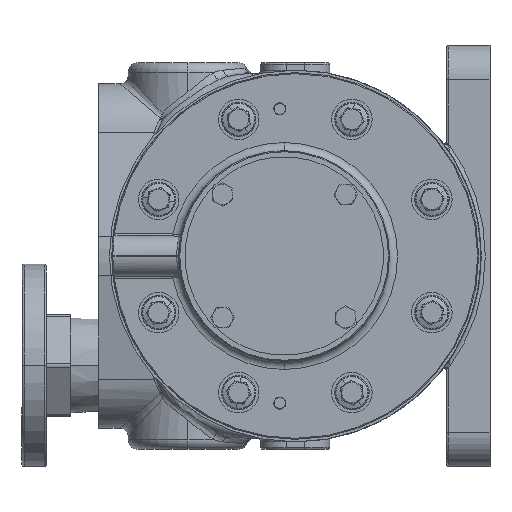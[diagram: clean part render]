
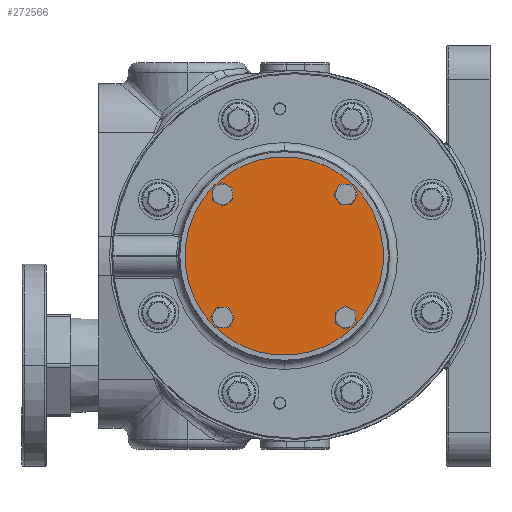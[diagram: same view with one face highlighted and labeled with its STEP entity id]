
A CAD part, left-side view. The second image highlights one B-rep face of the part: STEP entity #272566.
In plain terms, the highlighted planar face has unit normal (-1, 0, 0).
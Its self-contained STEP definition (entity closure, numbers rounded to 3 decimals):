
#2366 = CARTESIAN_POINT ( 'NONE',  ( -126.625, -29.138, 34.648 ) ) ;
#6628 = EDGE_LOOP ( 'NONE', ( #160574, #284402 ) ) ;
#7644 = AXIS2_PLACEMENT_3D ( 'NONE', #33769, #194156, #358671 ) ;
#9697 = CARTESIAN_POINT ( 'NONE',  ( -126.625, -22.421, 27.931 ) ) ;
#9710 = VERTEX_POINT ( 'NONE', #192307 ) ;
#12345 = AXIS2_PLACEMENT_3D ( 'NONE', #19086, #311505, #406431 ) ;
#15693 = DIRECTION ( 'NONE',  ( 0., 0.707, -0.707 ) ) ;
#19086 = CARTESIAN_POINT ( 'NONE',  ( -126.625, 35.916, -30.406 ) ) ;
#21273 = CIRCLE ( 'NONE', #263172, 3.5 ) ;
#21853 = EDGE_LOOP ( 'NONE', ( #186755, #205913 ) ) ;
#22178 = VERTEX_POINT ( 'NONE', #9697 ) ;
#25971 = CARTESIAN_POINT ( 'NONE',  ( -126.625, 33.441, -27.931 ) ) ;
#33365 = DIRECTION ( 'NONE',  ( -1., 0., 0. ) ) ;
#33769 = CARTESIAN_POINT ( 'NONE',  ( -126.625, -24.896, 30.406 ) ) ;
#41667 = EDGE_CURVE ( 'NONE', #278591, #22178, #367327, .T. ) ;
#42169 = DIRECTION ( 'NONE',  ( -1., 0., 0. ) ) ;
#42214 = ORIENTED_EDGE ( 'NONE', *, *, #361053, .T. ) ;
#43209 = CIRCLE ( 'NONE', #224807, 3.5 ) ;
#45208 = EDGE_LOOP ( 'NONE', ( #42214, #409742 ) ) ;
#50243 = VERTEX_POINT ( 'NONE', #217427 ) ;
#54906 = AXIS2_PLACEMENT_3D ( 'NONE', #125735, #121577, #90366 ) ;
#61096 = AXIS2_PLACEMENT_3D ( 'NONE', #112149, #174652, #15693 ) ;
#66049 = DIRECTION ( 'NONE',  ( 0., 0.707, -0.707 ) ) ;
#69225 = CARTESIAN_POINT ( 'NONE',  ( -126.625, 35.916, -30.406 ) ) ;
#69751 = CARTESIAN_POINT ( 'NONE',  ( -126.625, -24.896, 30.406 ) ) ;
#72006 = CARTESIAN_POINT ( 'NONE',  ( -126.625, -31.613, -37.123 ) ) ;
#75520 = ORIENTED_EDGE ( 'NONE', *, *, #78872, .F. ) ;
#77942 = CIRCLE ( 'NONE', #61096, 3.5 ) ;
#78872 = EDGE_CURVE ( 'NONE', #295013, #191474, #43209, .T. ) ;
#81993 = DIRECTION ( 'NONE',  ( -1., 0., 0. ) ) ;
#89909 = ORIENTED_EDGE ( 'NONE', *, *, #366098, .F. ) ;
#90366 = DIRECTION ( 'NONE',  ( 0., 0.707, -0.707 ) ) ;
#97379 = CARTESIAN_POINT ( 'NONE',  ( -126.625, -27.37, -27.931 ) ) ;
#100019 = EDGE_LOOP ( 'NONE', ( #89909, #406225 ) ) ;
#112149 = CARTESIAN_POINT ( 'NONE',  ( -126.625, -24.896, -30.406 ) ) ;
#116833 = CARTESIAN_POINT ( 'NONE',  ( -126.625, -22.421, -32.88 ) ) ;
#121577 = DIRECTION ( 'NONE',  ( -1., 0., 0. ) ) ;
#124124 = CIRCLE ( 'NONE', #320324, 49. ) ;
#124372 = AXIS2_PLACEMENT_3D ( 'NONE', #69225, #131666, #262319 ) ;
#125735 = CARTESIAN_POINT ( 'NONE',  ( -126.625, 5.51, 0. ) ) ;
#131462 = FACE_BOUND ( 'NONE', #21853, .T. ) ;
#131666 = DIRECTION ( 'NONE',  ( -1., 0., 0. ) ) ;
#133907 = AXIS2_PLACEMENT_3D ( 'NONE', #69751, #176077, #276846 ) ;
#146981 = CIRCLE ( 'NONE', #7644, 3.5 ) ;
#160574 = ORIENTED_EDGE ( 'NONE', *, *, #223973, .F. ) ;
#163352 = CIRCLE ( 'NONE', #337107, 3.5 ) ;
#172292 = FACE_BOUND ( 'NONE', #200327, .T. ) ;
#174652 = DIRECTION ( 'NONE',  ( -1., 0., 0. ) ) ;
#176077 = DIRECTION ( 'NONE',  ( -1., 0., 0. ) ) ;
#178855 = CARTESIAN_POINT ( 'NONE',  ( -126.625, -27.37, 32.88 ) ) ;
#186755 = ORIENTED_EDGE ( 'NONE', *, *, #366147, .F. ) ;
#191474 = VERTEX_POINT ( 'NONE', #266582 ) ;
#192307 = CARTESIAN_POINT ( 'NONE',  ( -126.625, 38.39, -32.88 ) ) ;
#194156 = DIRECTION ( 'NONE',  ( -1., 0., 0. ) ) ;
#200327 = EDGE_LOOP ( 'NONE', ( #223593, #75520 ) ) ;
#205913 = ORIENTED_EDGE ( 'NONE', *, *, #41667, .F. ) ;
#212549 = DIRECTION ( 'NONE',  ( 0., 0.707, -0.707 ) ) ;
#213007 = CIRCLE ( 'NONE', #124372, 3.5 ) ;
#214480 = EDGE_CURVE ( 'NONE', #377110, #9710, #421126, .T. ) ;
#217427 = CARTESIAN_POINT ( 'NONE',  ( -126.625, 40.158, -34.648 ) ) ;
#219832 = DIRECTION ( 'NONE',  ( 0., 0.707, -0.707 ) ) ;
#223593 = ORIENTED_EDGE ( 'NONE', *, *, #244355, .F. ) ;
#223973 = EDGE_CURVE ( 'NONE', #411706, #377536, #77942, .T. ) ;
#224807 = AXIS2_PLACEMENT_3D ( 'NONE', #381424, #380021, #219832 ) ;
#226334 = DIRECTION ( 'NONE',  ( -1., 0., 0. ) ) ;
#227816 = CARTESIAN_POINT ( 'NONE',  ( -126.625, 35.916, 30.406 ) ) ;
#244355 = EDGE_CURVE ( 'NONE', #191474, #295013, #21273, .T. ) ;
#254710 = CIRCLE ( 'NONE', #54906, 49. ) ;
#262319 = DIRECTION ( 'NONE',  ( 0., 0.707, -0.707 ) ) ;
#263172 = AXIS2_PLACEMENT_3D ( 'NONE', #227816, #33365, #66049 ) ;
#265189 = DIRECTION ( 'NONE',  ( 0., 0.707, -0.707 ) ) ;
#266582 = CARTESIAN_POINT ( 'NONE',  ( -126.625, 38.39, 27.931 ) ) ;
#268899 = FACE_BOUND ( 'NONE', #100019, .T. ) ;
#272566 = ADVANCED_FACE ( 'NONE', ( #268899, #172292, #131462, #365184, #380175 ), #296428, .T. ) ;
#275338 = AXIS2_PLACEMENT_3D ( 'NONE', #72006, #42169, #265189 ) ;
#276846 = DIRECTION ( 'NONE',  ( 0., 0.707, -0.707 ) ) ;
#278591 = VERTEX_POINT ( 'NONE', #178855 ) ;
#284402 = ORIENTED_EDGE ( 'NONE', *, *, #407201, .F. ) ;
#295013 = VERTEX_POINT ( 'NONE', #408969 ) ;
#296428 = PLANE ( 'NONE',  #275338 ) ;
#301645 = VERTEX_POINT ( 'NONE', #2366 ) ;
#311505 = DIRECTION ( 'NONE',  ( -1., 0., 0. ) ) ;
#319610 = EDGE_CURVE ( 'NONE', #50243, #301645, #124124, .T. ) ;
#320324 = AXIS2_PLACEMENT_3D ( 'NONE', #341605, #81993, #212549 ) ;
#325614 = CARTESIAN_POINT ( 'NONE',  ( -126.625, -24.896, -30.406 ) ) ;
#337107 = AXIS2_PLACEMENT_3D ( 'NONE', #325614, #226334, #359576 ) ;
#341605 = CARTESIAN_POINT ( 'NONE',  ( -126.625, 5.51, 0. ) ) ;
#358671 = DIRECTION ( 'NONE',  ( 0., 0.707, -0.707 ) ) ;
#359576 = DIRECTION ( 'NONE',  ( 0., 0.707, -0.707 ) ) ;
#361053 = EDGE_CURVE ( 'NONE', #301645, #50243, #254710, .T. ) ;
#365184 = FACE_BOUND ( 'NONE', #6628, .T. ) ;
#366098 = EDGE_CURVE ( 'NONE', #9710, #377110, #213007, .T. ) ;
#366147 = EDGE_CURVE ( 'NONE', #22178, #278591, #146981, .T. ) ;
#367327 = CIRCLE ( 'NONE', #133907, 3.5 ) ;
#377110 = VERTEX_POINT ( 'NONE', #25971 ) ;
#377536 = VERTEX_POINT ( 'NONE', #97379 ) ;
#380021 = DIRECTION ( 'NONE',  ( -1., 0., 0. ) ) ;
#380175 = FACE_OUTER_BOUND ( 'NONE', #45208, .T. ) ;
#381424 = CARTESIAN_POINT ( 'NONE',  ( -126.625, 35.916, 30.406 ) ) ;
#406225 = ORIENTED_EDGE ( 'NONE', *, *, #214480, .F. ) ;
#406431 = DIRECTION ( 'NONE',  ( 0., 0.707, -0.707 ) ) ;
#407201 = EDGE_CURVE ( 'NONE', #377536, #411706, #163352, .T. ) ;
#408969 = CARTESIAN_POINT ( 'NONE',  ( -126.625, 33.441, 32.88 ) ) ;
#409742 = ORIENTED_EDGE ( 'NONE', *, *, #319610, .T. ) ;
#411706 = VERTEX_POINT ( 'NONE', #116833 ) ;
#421126 = CIRCLE ( 'NONE', #12345, 3.5 ) ;
